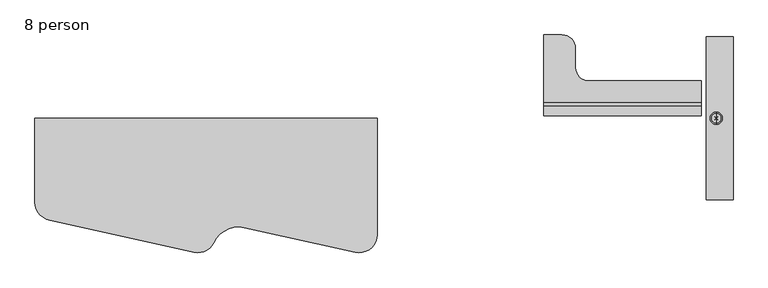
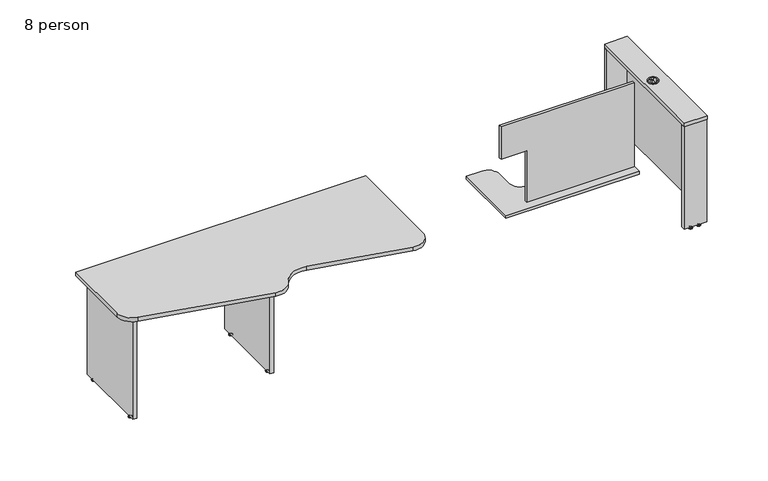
"""IFC4 building model written with IfcOpenShell, lengths in millimetres: furniture geometry, Nova Solutions - Collaboration Table - Keystone_8-11 person : 8 person."""

from ifc_helpers import new_model, si_unit, point, frame, frame_2d, origin, place, context, project, spatial, polyline, circle_curve, ellipse_curve, trimmed, segment, composite_curve, outline, extrude, source, transform, mapped, element, save
from ifc_brep_helpers import plane_surface, cylinder_surface, revolved_surface, advanced_brep


def furniture_8_person_16eeabb3(model_context):
    return source(origin(), model_context, "Body", "SolidModel", [
        advanced_brep(
        [(-1375.9776506, -474.3309375, 11.1125), (-1369.3, -474.3309375, 11.1125), (-1362.6223494, -474.3309375, 11.1125), (-1375.9776506, -474.3309375, 9.525), (-1362.6223494, -474.3309375, 9.525), (-1381.1855135, -474.3309375, 4.7748687), (-1357.4144865, -474.3309375, 4.7748687), (-1382.0466506, -474.3309375, 3.989419), (-1356.5533494, -474.3309375, 3.989419), (-1382.0466506, -474.3309375, 3.175), (-1356.5533494, -474.3309375, 3.175), (-1381.1959119, -474.3309375, 0.0), (-1357.4040881, -474.3309375, 0.0), (-1369.3, -474.3309375, 0.0)],
        [
            (0, 1),
            (1, 2),
            (2, 0, circle_curve(frame((-1369.3, -474.3309375, 11.1125), z_axis=(0.0, 0.0, 1.0), x_axis=(1.0, 0.0, 0.0)), 6.6776506)),
            (0, 2, circle_curve(frame((-1369.3, -474.3309375, 11.1125), z_axis=(0.0, 0.0, 1.0), x_axis=(1.0, 0.0, 0.0)), 6.6776506)),
            (3, 0),
            (2, 4),
            (4, 3, circle_curve(frame((-1369.3, -474.3309375, 9.525), z_axis=(0.0, 0.0, 1.0), x_axis=(1.0, 0.0, 0.0)), 6.6776506)),
            (3, 4, circle_curve(frame((-1369.3, -474.3309375, 9.525), z_axis=(0.0, 0.0, 1.0), x_axis=(1.0, 0.0, 0.0)), 6.6776506)),
            (5, 3, circle_curve(frame((-1382.2320627, -474.3309375, 11.1521822), z_axis=(0.0, -1.0, 0.0), x_axis=(1.0, 0.0, 0.0)), 6.462615)),
            (4, 6, circle_curve(frame((-1356.3679373, -474.3309375, 11.1521822), z_axis=(0.0, -1.0, 0.0), x_axis=(-1.0, 0.0, 0.0)), 6.462615)),
            (6, 5, circle_curve(frame((-1369.3, -474.3309375, 4.7748687), z_axis=(0.0, 0.0, 1.0), x_axis=(1.0, 0.0, 0.0)), 11.8855135)),
            (5, 6, circle_curve(frame((-1369.3, -474.3309375, 4.7748687), z_axis=(0.0, 0.0, 1.0), x_axis=(1.0, 0.0, 0.0)), 11.8855135)),
            (7, 5, circle_curve(frame((-1381.0124632, -474.3309375, 3.7203591), z_axis=(0.0, 1.0, 0.0), x_axis=(1.0, 0.0, 0.0)), 1.0686145)),
            (6, 8, circle_curve(frame((-1357.5875368, -474.3309375, 3.7203591), z_axis=(0.0, 1.0, 0.0), x_axis=(-1.0, 0.0, 0.0)), 1.0686145)),
            (8, 7, circle_curve(frame((-1369.3, -474.3309375, 3.989419), z_axis=(0.0, 0.0, 1.0), x_axis=(1.0, 0.0, 0.0)), 12.7466506)),
            (7, 8, circle_curve(frame((-1369.3, -474.3309375, 3.989419), z_axis=(0.0, 0.0, 1.0), x_axis=(1.0, 0.0, 0.0)), 12.7466506)),
            (9, 7),
            (8, 10),
            (10, 9, circle_curve(frame((-1369.3, -474.3309375, 3.175), z_axis=(0.0, 0.0, 1.0), x_axis=(1.0, 0.0, 0.0)), 12.7466506)),
            (9, 10, circle_curve(frame((-1369.3, -474.3309375, 3.175), z_axis=(0.0, 0.0, 1.0), x_axis=(1.0, 0.0, 0.0)), 12.7466506)),
            (11, 9),
            (10, 12),
            (12, 11, circle_curve(frame((-1369.3, -474.3309375, 0.0), z_axis=(0.0, 0.0, 1.0), x_axis=(1.0, 0.0, 0.0)), 11.8959119)),
            (11, 12, circle_curve(frame((-1369.3, -474.3309375, 0.0), z_axis=(0.0, 0.0, 1.0), x_axis=(1.0, 0.0, 0.0)), 11.8959119)),
            (13, 11),
            (12, 13),
        ],
        [
            plane_surface(frame((-1369.3, -474.3309375, 11.1125), z_axis=(0.0, 0.0, 1.0), x_axis=(1.0, 0.0, 0.0))),
            cylinder_surface(frame((-1369.3, -474.3309375, 43.2095994), z_axis=(0.0, 0.0, -1.0), x_axis=(1.0, 0.0, 0.0)), 6.6776506),
            revolved_surface(trimmed(ellipse_curve(frame((-1356.3679373, -474.3309375, 11.1521822), z_axis=(0.0, -1.0, 0.0), x_axis=(-1.0, 0.0, 0.0)), 6.462615, 6.462615), [point((-1362.6223494, -474.3309375, 9.525))], [point((-1357.4144865, -474.3309375, 4.7748687))], True, "CARTESIAN"), (-1369.3, -474.3309375, 43.2095994), (0.0, 0.0, -1.0)),
            revolved_surface(trimmed(ellipse_curve(frame((-1357.5875368, -474.3309375, 3.7203591), z_axis=(0.0, 1.0, 0.0), x_axis=(-1.0, 0.0, 0.0)), 1.0686145, 1.0686145), [point((-1357.4144865, -474.3309375, 4.7748687))], [point((-1356.5533494, -474.3309375, 3.989419))], True, "CARTESIAN"), (-1369.3, -474.3309375, 43.2095994), (0.0, 0.0, -1.0)),
            cylinder_surface(frame((-1369.3, -474.3309375, 43.2095994), z_axis=(0.0, 0.0, -1.0), x_axis=(1.0, 0.0, 0.0)), 12.7466506),
            revolved_surface(polyline([(-1356.5533494, -474.3309375, 3.175), (-1357.4040881, -474.3309375, 0.0)]), (-1369.3, -474.3309375, 43.2095994), (0.0, 0.0, -1.0)),
            plane_surface(frame((-1369.3, -474.3309375, 0.0), z_axis=(0.0, 0.0, -1.0), x_axis=(1.0, 0.0, 0.0))),
        ],
        [
            (0, [[1, 2, 3]]),
            (0, [[-2, -1, 4]]),
            (1, [[5, -3, 6, 7]]),
            (1, [[-6, -4, -5, 8]]),
            (2, [[9, -7, 10, 11]]),
            (2, [[-10, -8, -9, 12]]),
            (3, [[13, -11, 14, 15]]),
            (3, [[-14, -12, -13, 16]]),
            (4, [[17, -15, 18, 19]]),
            (4, [[-18, -16, -17, 20]]),
            (5, [[21, -19, 22, 23]]),
            (5, [[-22, -20, -21, 24]]),
            (6, [[25, -23, 26]]),
            (6, [[-26, -24, -25]]),
        ],
    ),
        advanced_brep(
        [(-1375.9776506, -50.3590625, 11.1125), (-1369.3, -50.3590625, 11.1125), (-1362.6223494, -50.3590625, 11.1125), (-1375.9776506, -50.3590625, 9.525), (-1362.6223494, -50.3590625, 9.525), (-1381.1855135, -50.3590625, 4.7748687), (-1357.4144865, -50.3590625, 4.7748687), (-1382.0466506, -50.3590625, 3.989419), (-1356.5533494, -50.3590625, 3.989419), (-1382.0466506, -50.3590625, 3.175), (-1356.5533494, -50.3590625, 3.175), (-1381.1959119, -50.3590625, 0.0), (-1357.4040881, -50.3590625, 0.0), (-1369.3, -50.3590625, 0.0)],
        [
            (0, 1),
            (1, 2),
            (2, 0, circle_curve(frame((-1369.3, -50.3590625, 11.1125), z_axis=(0.0, 0.0, 1.0), x_axis=(1.0, 0.0, 0.0)), 6.6776506)),
            (0, 2, circle_curve(frame((-1369.3, -50.3590625, 11.1125), z_axis=(0.0, 0.0, 1.0), x_axis=(1.0, 0.0, 0.0)), 6.6776506)),
            (3, 0),
            (2, 4),
            (4, 3, circle_curve(frame((-1369.3, -50.3590625, 9.525), z_axis=(0.0, 0.0, 1.0), x_axis=(1.0, 0.0, 0.0)), 6.6776506)),
            (3, 4, circle_curve(frame((-1369.3, -50.3590625, 9.525), z_axis=(0.0, 0.0, 1.0), x_axis=(1.0, 0.0, 0.0)), 6.6776506)),
            (5, 3, circle_curve(frame((-1382.2320627, -50.3590625, 11.1521822), z_axis=(0.0, -1.0, 0.0), x_axis=(1.0, 0.0, 0.0)), 6.462615)),
            (4, 6, circle_curve(frame((-1356.3679373, -50.3590625, 11.1521822), z_axis=(0.0, -1.0, 0.0), x_axis=(-1.0, 0.0, 0.0)), 6.462615)),
            (6, 5, circle_curve(frame((-1369.3, -50.3590625, 4.7748687), z_axis=(0.0, 0.0, 1.0), x_axis=(1.0, 0.0, 0.0)), 11.8855135)),
            (5, 6, circle_curve(frame((-1369.3, -50.3590625, 4.7748687), z_axis=(0.0, 0.0, 1.0), x_axis=(1.0, 0.0, 0.0)), 11.8855135)),
            (7, 5, circle_curve(frame((-1381.0124632, -50.3590625, 3.7203591), z_axis=(0.0, 1.0, 0.0), x_axis=(1.0, 0.0, 0.0)), 1.0686145)),
            (6, 8, circle_curve(frame((-1357.5875368, -50.3590625, 3.7203591), z_axis=(0.0, 1.0, 0.0), x_axis=(-1.0, 0.0, 0.0)), 1.0686145)),
            (8, 7, circle_curve(frame((-1369.3, -50.3590625, 3.989419), z_axis=(0.0, 0.0, 1.0), x_axis=(1.0, 0.0, 0.0)), 12.7466506)),
            (7, 8, circle_curve(frame((-1369.3, -50.3590625, 3.989419), z_axis=(0.0, 0.0, 1.0), x_axis=(1.0, 0.0, 0.0)), 12.7466506)),
            (9, 7),
            (8, 10),
            (10, 9, circle_curve(frame((-1369.3, -50.3590625, 3.175), z_axis=(0.0, 0.0, 1.0), x_axis=(1.0, 0.0, 0.0)), 12.7466506)),
            (9, 10, circle_curve(frame((-1369.3, -50.3590625, 3.175), z_axis=(0.0, 0.0, 1.0), x_axis=(1.0, 0.0, 0.0)), 12.7466506)),
            (11, 9),
            (10, 12),
            (12, 11, circle_curve(frame((-1369.3, -50.3590625, 0.0), z_axis=(0.0, 0.0, 1.0), x_axis=(1.0, 0.0, 0.0)), 11.8959119)),
            (11, 12, circle_curve(frame((-1369.3, -50.3590625, 0.0), z_axis=(0.0, 0.0, 1.0), x_axis=(1.0, 0.0, 0.0)), 11.8959119)),
            (13, 11),
            (12, 13),
        ],
        [
            plane_surface(frame((-1369.3, -50.3590625, 11.1125), z_axis=(0.0, 0.0, 1.0), x_axis=(1.0, 0.0, 0.0))),
            cylinder_surface(frame((-1369.3, -50.3590625, 43.2095994), z_axis=(0.0, 0.0, -1.0), x_axis=(1.0, 0.0, 0.0)), 6.6776506),
            revolved_surface(trimmed(ellipse_curve(frame((-1356.3679373, -50.3590625, 11.1521822), z_axis=(0.0, -1.0, 0.0), x_axis=(-1.0, 0.0, 0.0)), 6.462615, 6.462615), [point((-1362.6223494, -50.3590625, 9.525))], [point((-1357.4144865, -50.3590625, 4.7748687))], True, "CARTESIAN"), (-1369.3, -50.3590625, 43.2095994), (0.0, 0.0, -1.0)),
            revolved_surface(trimmed(ellipse_curve(frame((-1357.5875368, -50.3590625, 3.7203591), z_axis=(0.0, 1.0, 0.0), x_axis=(-1.0, 0.0, 0.0)), 1.0686145, 1.0686145), [point((-1357.4144865, -50.3590625, 4.7748687))], [point((-1356.5533494, -50.3590625, 3.989419))], True, "CARTESIAN"), (-1369.3, -50.3590625, 43.2095994), (0.0, 0.0, -1.0)),
            cylinder_surface(frame((-1369.3, -50.3590625, 43.2095994), z_axis=(0.0, 0.0, -1.0), x_axis=(1.0, 0.0, 0.0)), 12.7466506),
            revolved_surface(polyline([(-1356.5533494, -50.3590625, 3.175), (-1357.4040881, -50.3590625, 0.0)]), (-1369.3, -50.3590625, 43.2095994), (0.0, 0.0, -1.0)),
            plane_surface(frame((-1369.3, -50.3590625, 0.0), z_axis=(0.0, 0.0, -1.0), x_axis=(1.0, 0.0, 0.0))),
        ],
        [
            (0, [[1, 2, 3]]),
            (0, [[-2, -1, 4]]),
            (1, [[5, -3, 6, 7]]),
            (1, [[-6, -4, -5, 8]]),
            (2, [[9, -7, 10, 11]]),
            (2, [[-10, -8, -9, 12]]),
            (3, [[13, -11, 14, 15]]),
            (3, [[-14, -12, -13, 16]]),
            (4, [[17, -15, 18, 19]]),
            (4, [[-18, -16, -17, 20]]),
            (5, [[21, -19, 22, 23]]),
            (5, [[-22, -20, -21, 24]]),
            (6, [[25, -23, 26]]),
            (6, [[-26, -24, -25]]),
        ],
    ),
        extrude(outline(polyline([(-1382.15, -1.345), (-1356.45, -1.345), (-1356.45, -523.345), (-1382.15, -523.345), (-1382.15, -1.345)])), frame((0.0, 0.0, 15.6), z_axis=(0.0, 0.0, 1.0), x_axis=(1.0, 0.0, 0.0)), (0.0, 0.0, 1.0), 720.7),
        advanced_brep(
        [(-449.7223494, -474.3309375, 11.1125), (-463.0776506, -474.3309375, 11.1125), (-456.4, -474.3309375, 11.1125), (-449.7223494, -474.3309375, 9.525), (-463.0776506, -474.3309375, 9.525), (-444.5144865, -474.3309375, 4.7748687), (-468.2855135, -474.3309375, 4.7748687), (-443.6533494, -474.3309375, 3.989419), (-469.1466506, -474.3309375, 3.989419), (-443.6533494, -474.3309375, 3.175), (-469.1466506, -474.3309375, 3.175), (-444.5040881, -474.3309375, 0.0), (-468.2959119, -474.3309375, 0.0), (-456.4, -474.3309375, 0.0)],
        [
            (0, 1, circle_curve(frame((-456.4, -474.3309375, 11.1125), z_axis=(0.0, 0.0, 1.0), x_axis=(-1.0, 0.0, 0.0)), 6.6776506)),
            (1, 2),
            (2, 0),
            (1, 0, circle_curve(frame((-456.4, -474.3309375, 11.1125), z_axis=(0.0, 0.0, 1.0), x_axis=(-1.0, 0.0, 0.0)), 6.6776506)),
            (3, 4, circle_curve(frame((-456.4, -474.3309375, 9.525), z_axis=(0.0, 0.0, 1.0), x_axis=(-1.0, 0.0, 0.0)), 6.6776506)),
            (4, 1),
            (0, 3),
            (4, 3, circle_curve(frame((-456.4, -474.3309375, 9.525), z_axis=(0.0, 0.0, 1.0), x_axis=(-1.0, 0.0, 0.0)), 6.6776506)),
            (5, 6, circle_curve(frame((-456.4, -474.3309375, 4.7748687), z_axis=(0.0, 0.0, 1.0), x_axis=(-1.0, 0.0, 0.0)), 11.8855135)),
            (6, 4, circle_curve(frame((-469.3320627, -474.3309375, 11.1521822), z_axis=(0.0, -1.0, 0.0), x_axis=(1.0, 0.0, 0.0)), 6.462615)),
            (3, 5, circle_curve(frame((-443.4679373, -474.3309375, 11.1521822), z_axis=(0.0, -1.0, 0.0), x_axis=(-1.0, 0.0, 0.0)), 6.462615)),
            (6, 5, circle_curve(frame((-456.4, -474.3309375, 4.7748687), z_axis=(0.0, 0.0, 1.0), x_axis=(-1.0, 0.0, 0.0)), 11.8855135)),
            (7, 8, circle_curve(frame((-456.4, -474.3309375, 3.989419), z_axis=(0.0, 0.0, 1.0), x_axis=(-1.0, 0.0, 0.0)), 12.7466506)),
            (8, 6, circle_curve(frame((-468.1124632, -474.3309375, 3.7203591), z_axis=(0.0, 1.0, 0.0), x_axis=(1.0, 0.0, 0.0)), 1.0686145)),
            (5, 7, circle_curve(frame((-444.6875368, -474.3309375, 3.7203591), z_axis=(0.0, 1.0, 0.0), x_axis=(-1.0, 0.0, 0.0)), 1.0686145)),
            (8, 7, circle_curve(frame((-456.4, -474.3309375, 3.989419), z_axis=(0.0, 0.0, 1.0), x_axis=(-1.0, 0.0, 0.0)), 12.7466506)),
            (9, 10, circle_curve(frame((-456.4, -474.3309375, 3.175), z_axis=(0.0, 0.0, 1.0), x_axis=(-1.0, 0.0, 0.0)), 12.7466506)),
            (10, 8),
            (7, 9),
            (10, 9, circle_curve(frame((-456.4, -474.3309375, 3.175), z_axis=(0.0, 0.0, 1.0), x_axis=(-1.0, 0.0, 0.0)), 12.7466506)),
            (11, 12, circle_curve(frame((-456.4, -474.3309375, 0.0), z_axis=(0.0, 0.0, 1.0), x_axis=(-1.0, 0.0, 0.0)), 11.8959119)),
            (12, 10),
            (9, 11),
            (12, 11, circle_curve(frame((-456.4, -474.3309375, 0.0), z_axis=(0.0, 0.0, 1.0), x_axis=(-1.0, 0.0, 0.0)), 11.8959119)),
            (13, 12),
            (11, 13),
        ],
        [
            plane_surface(frame((-456.4, -474.3309375, 11.1125), z_axis=(0.0, 0.0, 1.0), x_axis=(-1.0, 0.0, 0.0))),
            cylinder_surface(frame((-456.4, -474.3309375, 43.2095994), z_axis=(0.0, 0.0, -1.0), x_axis=(-1.0, 0.0, 0.0)), 6.6776506),
            revolved_surface(trimmed(ellipse_curve(frame((-469.3320627, -474.3309375, 11.1521822), z_axis=(0.0, 1.0, 0.0), x_axis=(1.0, 0.0, 0.0)), 6.462615, 6.462615), [point((-463.0776506, -474.3309375, 9.525))], [point((-468.2855135, -474.3309375, 4.7748687))], True, "CARTESIAN"), (-456.4, -474.3309375, 43.2095994), (0.0, 0.0, -1.0)),
            revolved_surface(trimmed(ellipse_curve(frame((-468.1124632, -474.3309375, 3.7203591), z_axis=(0.0, -1.0, 0.0), x_axis=(1.0, 0.0, 0.0)), 1.0686145, 1.0686145), [point((-468.2855135, -474.3309375, 4.7748687))], [point((-469.1466506, -474.3309375, 3.989419))], True, "CARTESIAN"), (-456.4, -474.3309375, 43.2095994), (0.0, 0.0, -1.0)),
            cylinder_surface(frame((-456.4, -474.3309375, 43.2095994), z_axis=(0.0, 0.0, -1.0), x_axis=(-1.0, 0.0, 0.0)), 12.7466506),
            revolved_surface(polyline([(-469.1466506, -474.3309375, 3.175), (-468.2959119, -474.3309375, 0.0)]), (-456.4, -474.3309375, 43.2095994), (0.0, 0.0, -1.0)),
            plane_surface(frame((-456.4, -474.3309375, 0.0), z_axis=(0.0, 0.0, -1.0), x_axis=(-1.0, 0.0, 0.0))),
        ],
        [
            (0, [[1, 2, 3]]),
            (0, [[4, -3, -2]]),
            (1, [[5, 6, -1, 7]]),
            (1, [[8, -7, -4, -6]]),
            (2, [[9, 10, -5, 11]]),
            (2, [[12, -11, -8, -10]]),
            (3, [[13, 14, -9, 15]]),
            (3, [[16, -15, -12, -14]]),
            (4, [[17, 18, -13, 19]]),
            (4, [[20, -19, -16, -18]]),
            (5, [[21, 22, -17, 23]]),
            (5, [[24, -23, -20, -22]]),
            (6, [[25, -21, 26]]),
            (6, [[-26, -24, -25]]),
        ],
    ),
        advanced_brep(
        [(-449.7223494, -50.3590625, 11.1125), (-463.0776506, -50.3590625, 11.1125), (-456.4, -50.3590625, 11.1125), (-449.7223494, -50.3590625, 9.525), (-463.0776506, -50.3590625, 9.525), (-444.5144865, -50.3590625, 4.7748687), (-468.2855135, -50.3590625, 4.7748687), (-443.6533494, -50.3590625, 3.989419), (-469.1466506, -50.3590625, 3.989419), (-443.6533494, -50.3590625, 3.175), (-469.1466506, -50.3590625, 3.175), (-444.5040881, -50.3590625, 0.0), (-468.2959119, -50.3590625, 0.0), (-456.4, -50.3590625, 0.0)],
        [
            (0, 1, circle_curve(frame((-456.4, -50.3590625, 11.1125), z_axis=(0.0, 0.0, 1.0), x_axis=(-1.0, 0.0, 0.0)), 6.6776506)),
            (1, 2),
            (2, 0),
            (1, 0, circle_curve(frame((-456.4, -50.3590625, 11.1125), z_axis=(0.0, 0.0, 1.0), x_axis=(-1.0, 0.0, 0.0)), 6.6776506)),
            (3, 4, circle_curve(frame((-456.4, -50.3590625, 9.525), z_axis=(0.0, 0.0, 1.0), x_axis=(-1.0, 0.0, 0.0)), 6.6776506)),
            (4, 1),
            (0, 3),
            (4, 3, circle_curve(frame((-456.4, -50.3590625, 9.525), z_axis=(0.0, 0.0, 1.0), x_axis=(-1.0, 0.0, 0.0)), 6.6776506)),
            (5, 6, circle_curve(frame((-456.4, -50.3590625, 4.7748687), z_axis=(0.0, 0.0, 1.0), x_axis=(-1.0, 0.0, 0.0)), 11.8855135)),
            (6, 4, circle_curve(frame((-469.3320627, -50.3590625, 11.1521822), z_axis=(0.0, -1.0, 0.0), x_axis=(1.0, 0.0, 0.0)), 6.462615)),
            (3, 5, circle_curve(frame((-443.4679373, -50.3590625, 11.1521822), z_axis=(0.0, -1.0, 0.0), x_axis=(-1.0, 0.0, 0.0)), 6.462615)),
            (6, 5, circle_curve(frame((-456.4, -50.3590625, 4.7748687), z_axis=(0.0, 0.0, 1.0), x_axis=(-1.0, 0.0, 0.0)), 11.8855135)),
            (7, 8, circle_curve(frame((-456.4, -50.3590625, 3.989419), z_axis=(0.0, 0.0, 1.0), x_axis=(-1.0, 0.0, 0.0)), 12.7466506)),
            (8, 6, circle_curve(frame((-468.1124632, -50.3590625, 3.7203591), z_axis=(0.0, 1.0, 0.0), x_axis=(1.0, 0.0, 0.0)), 1.0686145)),
            (5, 7, circle_curve(frame((-444.6875368, -50.3590625, 3.7203591), z_axis=(0.0, 1.0, 0.0), x_axis=(-1.0, 0.0, 0.0)), 1.0686145)),
            (8, 7, circle_curve(frame((-456.4, -50.3590625, 3.989419), z_axis=(0.0, 0.0, 1.0), x_axis=(-1.0, 0.0, 0.0)), 12.7466506)),
            (9, 10, circle_curve(frame((-456.4, -50.3590625, 3.175), z_axis=(0.0, 0.0, 1.0), x_axis=(-1.0, 0.0, 0.0)), 12.7466506)),
            (10, 8),
            (7, 9),
            (10, 9, circle_curve(frame((-456.4, -50.3590625, 3.175), z_axis=(0.0, 0.0, 1.0), x_axis=(-1.0, 0.0, 0.0)), 12.7466506)),
            (11, 12, circle_curve(frame((-456.4, -50.3590625, 0.0), z_axis=(0.0, 0.0, 1.0), x_axis=(-1.0, 0.0, 0.0)), 11.8959119)),
            (12, 10),
            (9, 11),
            (12, 11, circle_curve(frame((-456.4, -50.3590625, 0.0), z_axis=(0.0, 0.0, 1.0), x_axis=(-1.0, 0.0, 0.0)), 11.8959119)),
            (13, 12),
            (11, 13),
        ],
        [
            plane_surface(frame((-456.4, -50.3590625, 11.1125), z_axis=(0.0, 0.0, 1.0), x_axis=(-1.0, 0.0, 0.0))),
            cylinder_surface(frame((-456.4, -50.3590625, 43.2095994), z_axis=(0.0, 0.0, -1.0), x_axis=(-1.0, 0.0, 0.0)), 6.6776506),
            revolved_surface(trimmed(ellipse_curve(frame((-469.3320627, -50.3590625, 11.1521822), z_axis=(0.0, 1.0, 0.0), x_axis=(1.0, 0.0, 0.0)), 6.462615, 6.462615), [point((-463.0776506, -50.3590625, 9.525))], [point((-468.2855135, -50.3590625, 4.7748687))], True, "CARTESIAN"), (-456.4, -50.3590625, 43.2095994), (0.0, 0.0, -1.0)),
            revolved_surface(trimmed(ellipse_curve(frame((-468.1124632, -50.3590625, 3.7203591), z_axis=(0.0, -1.0, 0.0), x_axis=(1.0, 0.0, 0.0)), 1.0686145, 1.0686145), [point((-468.2855135, -50.3590625, 4.7748687))], [point((-469.1466506, -50.3590625, 3.989419))], True, "CARTESIAN"), (-456.4, -50.3590625, 43.2095994), (0.0, 0.0, -1.0)),
            cylinder_surface(frame((-456.4, -50.3590625, 43.2095994), z_axis=(0.0, 0.0, -1.0), x_axis=(-1.0, 0.0, 0.0)), 12.7466506),
            revolved_surface(polyline([(-469.1466506, -50.3590625, 3.175), (-468.2959119, -50.3590625, 0.0)]), (-456.4, -50.3590625, 43.2095994), (0.0, 0.0, -1.0)),
            plane_surface(frame((-456.4, -50.3590625, 0.0), z_axis=(0.0, 0.0, -1.0), x_axis=(-1.0, 0.0, 0.0))),
        ],
        [
            (0, [[1, 2, 3]]),
            (0, [[4, -3, -2]]),
            (1, [[5, 6, -1, 7]]),
            (1, [[8, -7, -4, -6]]),
            (2, [[9, 10, -5, 11]]),
            (2, [[12, -11, -8, -10]]),
            (3, [[13, 14, -9, 15]]),
            (3, [[16, -15, -12, -14]]),
            (4, [[17, 18, -13, 19]]),
            (4, [[20, -19, -16, -18]]),
            (5, [[21, 22, -17, 23]]),
            (5, [[24, -23, -20, -22]]),
            (6, [[25, -21, 26]]),
            (6, [[-26, -24, -25]]),
        ],
    ),
        extrude(outline(polyline([(-443.55, -1.345), (-443.55, -523.345), (-469.25, -523.345), (-469.25, -1.345), (-443.55, -1.345)])), frame((0.0, 0.0, 15.6), z_axis=(0.0, 0.0, 1.0), x_axis=(1.0, 0.0, 0.0)), (0.0, 0.0, 1.0), 720.7),
        extrude(outline(composite_curve([segment(polyline([(470.65, 0.0), (470.65, -656.5229386)]), True, "CONTINUOUS"), segment(trimmed(circle_curve(frame_2d((369.15, -656.5229386)), 101.5), [point((470.65, -656.5229386))], [point((347.1813792, -755.6169834))], False, "CARTESIAN"), True, "CONTINUOUS"), segment(polyline([(347.1813792, -755.6169834), (-279.3215717, -616.724623)]), True, "CONTINUOUS"), segment(trimmed(circle_curve(frame_2d((-312.3069689, -765.5121345)), 152.4), [point((-279.3215717, -616.724623))], [point((-450.9850666, -702.3128843))], True, "CARTESIAN"), True, "CONTINUOUS"), segment(trimmed(circle_curve(frame_2d((-541.5867994, -656.5572725)), 101.5), [point((-450.9850666, -702.3128843))], [point((-563.6827884, -755.6229945))], False, "CARTESIAN"), True, "CONTINUOUS"), segment(polyline([(-563.6827884, -755.6229945), (-1377.1758236, -574.1784667)]), True, "CONTINUOUS"), segment(trimmed(circle_curve(frame_2d((-1358.2251452, -474.4632633)), 101.5), [point((-1377.1758236, -574.1784667))], [point((-1459.7251452, -474.4632633))], False, "CARTESIAN"), True, "CONTINUOUS"), segment(polyline([(-1459.7251452, -474.4632633), (-1459.7251452, 0.0), (470.65, 0.0)]), True, "CONTINUOUS")], self_intersect=False)), frame((0.0, 0.0, 736.3), z_axis=(0.0, 0.0, 1.0), x_axis=(1.0, 0.0, 0.0)), (0.0, 0.0, 1.0), 25.7),
        advanced_brep(
        [(2382.288, -34.925, 762.0), (2382.288, 34.925, 762.0), (2382.288, 24.6435157, 762.0), (2381.141542, 2.7677944, 762.0), (2364.8624029, 17.4255971, 762.0), (2379.5202056, 1.146458, 762.0), (2357.6444843, 0.0, 762.0), (2379.5202056, -1.146458, 762.0), (2364.8624029, -17.4255971, 762.0), (2381.141542, -2.7677944, 762.0), (2382.288, -24.6435157, 762.0), (2383.434458, -2.7677944, 762.0), (2399.7135971, -17.4255971, 762.0), (2385.0557944, -1.146458, 762.0), (2406.9315157, 0.0, 762.0), (2385.0557944, 1.146458, 762.0), (2399.7135971, 17.4255971, 762.0), (2383.434458, 2.7677944, 762.0), (2382.288, -34.925, 763.3787817), (2382.288, 34.925, 763.3787817), (2382.288, -28.7119174, 765.175), (2382.288, 28.7119174, 765.175), (2382.288, -24.6435157, 765.175), (2381.141542, -2.7677944, 765.175), (2364.8624029, -17.4255971, 765.175), (2379.5202056, -1.146458, 765.175), (2357.6444843, 0.0, 765.175), (2379.5202056, 1.146458, 765.175), (2364.8624029, 17.4255971, 765.175), (2381.141542, 2.7677944, 765.175), (2382.288, 24.6435157, 765.175), (2383.434458, 2.7677944, 765.175), (2399.7135971, 17.4255971, 765.175), (2385.0557944, 1.146458, 765.175), (2406.9315157, 0.0, 765.175), (2385.0557944, -1.146458, 765.175), (2399.7135971, -17.4255971, 765.175), (2383.434458, -2.7677944, 765.175)],
        [
            (0, 1, circle_curve(frame((2382.288, 0.0, 762.0), z_axis=(0.0, 0.0, -1.0), x_axis=(0.0, 1.0, 0.0)), 34.925)),
            (1, 2),
            (2, 3),
            (3, 4),
            (4, 5),
            (5, 6),
            (6, 7),
            (7, 8),
            (8, 9),
            (9, 10),
            (10, 0),
            (1, 0, circle_curve(frame((2382.288, 0.0, 762.0), z_axis=(0.0, 0.0, -1.0), x_axis=(0.0, 1.0, 0.0)), 34.925)),
            (10, 11),
            (11, 12),
            (12, 13),
            (13, 14),
            (14, 15),
            (15, 16),
            (16, 17),
            (17, 2),
            (0, 18),
            (18, 19, circle_curve(frame((2382.288, 0.0, 763.3787817), z_axis=(0.0, 0.0, -1.0), x_axis=(0.0, 1.0, 0.0)), 34.925)),
            (19, 1),
            (19, 18, circle_curve(frame((2382.288, 0.0, 763.3787817), z_axis=(0.0, 0.0, -1.0), x_axis=(0.0, 1.0, 0.0)), 34.925)),
            (18, 20, circle_curve(frame((2382.288, -31.558813, 763.3787817), z_axis=(-1.0, 0.0, 0.0), x_axis=(0.0, -1.0, 0.0)), 3.366187)),
            (20, 21, circle_curve(frame((2382.288, 0.0, 765.175), z_axis=(0.0, 0.0, -1.0), x_axis=(0.0, 1.0, 0.0)), 28.7119174)),
            (21, 19, circle_curve(frame((2382.288, 31.558813, 763.3787817), z_axis=(-1.0, 0.0, 0.0), x_axis=(0.0, 1.0, 0.0)), 3.366187)),
            (21, 20, circle_curve(frame((2382.288, 0.0, 765.175), z_axis=(0.0, 0.0, -1.0), x_axis=(0.0, 1.0, 0.0)), 28.7119174)),
            (20, 22),
            (22, 23),
            (23, 24),
            (24, 25),
            (25, 26),
            (26, 27),
            (27, 28),
            (28, 29),
            (29, 30),
            (30, 21),
            (30, 31),
            (31, 32),
            (32, 33),
            (33, 34),
            (34, 35),
            (35, 36),
            (36, 37),
            (37, 22),
            (26, 6),
            (5, 27),
            (25, 7),
            (24, 8),
            (23, 9),
            (22, 10),
            (37, 11),
            (36, 12),
            (35, 13),
            (34, 14),
            (33, 15),
            (32, 16),
            (31, 17),
            (30, 2),
            (29, 3),
            (28, 4),
        ],
        [
            plane_surface(frame((2382.288, 0.0, 762.0), z_axis=(0.0, 0.0, -1.0), x_axis=(0.0, 1.0, 0.0))),
            cylinder_surface(frame((2382.288, 0.0, 850.9), z_axis=(0.0, 0.0, 1.0), x_axis=(0.0, 1.0, 0.0)), 34.925),
            revolved_surface(trimmed(ellipse_curve(frame((2382.288, 31.558813, 763.3787817), z_axis=(1.0, 0.0, 0.0), x_axis=(0.0, 1.0, 0.0)), 3.366187, 3.366187), [point((2382.288, 34.925, 763.3787817))], [point((2382.288, 28.7119174, 765.175))], True, "CARTESIAN"), (2382.288, 0.0, 850.9), (0.0, 0.0, 1.0)),
            plane_surface(frame((2382.288, 0.0, 765.175), z_axis=(0.0, 0.0, 1.0), x_axis=(0.0, 1.0, 0.0))),
            plane_surface(frame((2382.288, 1.2915119, 787.4), z_axis=(0.05233595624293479, -0.9986295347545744, 0.0), x_axis=(0.0, 0.0, -1.0))),
            plane_surface(frame((2357.6444843, 0.0, 787.4), z_axis=(0.052335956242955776, 0.9986295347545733, 0.0), x_axis=(0.0, 0.0, -1.0))),
            plane_surface(frame((2381.3747632, 0.9132368, 787.4), z_axis=(0.7431448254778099, -0.6691306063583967, 0.0), x_axis=(0.0, 0.0, -1.0))),
            plane_surface(frame((2364.8624029, -17.4255971, 787.4), z_axis=(-0.6691306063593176, 0.7431448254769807, 0.0), x_axis=(0.0, 0.0, -1.0))),
            plane_surface(frame((2380.9964881, 0.0, 787.4), z_axis=(0.9986295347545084, 0.05233595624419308, 0.0), x_axis=(0.0, 0.0, -1.0))),
            plane_surface(frame((2382.288, -24.6435157, 787.4), z_axis=(-0.9986295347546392, 0.05233595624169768, 0.0), x_axis=(0.0, 0.0, -1.0))),
            plane_surface(frame((2381.3747632, -0.9132368, 787.4), z_axis=(0.6691306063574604, 0.743144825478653, 0.0), x_axis=(0.0, 0.0, -1.0))),
            plane_surface(frame((2399.7135971, -17.4255971, 787.4), z_axis=(-0.7431448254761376, -0.669130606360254, 0.0), x_axis=(0.0, 0.0, -1.0))),
            plane_surface(frame((2382.288, -1.2915119, 787.4), z_axis=(-0.052335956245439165, 0.9986295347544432, 0.0), x_axis=(0.0, 0.0, -1.0))),
            plane_surface(frame((2406.9315157, 0.0, 787.4), z_axis=(-0.05233595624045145, -0.9986295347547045, 0.0), x_axis=(0.0, 0.0, -1.0))),
            plane_surface(frame((2383.2012368, -0.9132368, 787.4), z_axis=(-0.7431448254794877, 0.6691306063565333, 0.0), x_axis=(0.0, 0.0, -1.0))),
            plane_surface(frame((2399.7135971, 17.4255971, 787.4), z_axis=(0.669130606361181, -0.7431448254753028, 0.0), x_axis=(0.0, 0.0, -1.0))),
            plane_surface(frame((2383.5795119, 0.0, 787.4), z_axis=(-0.9986295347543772, -0.05233595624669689, 0.0), x_axis=(0.0, 0.0, -1.0))),
            plane_surface(frame((2382.288, 24.6435157, 787.4), z_axis=(0.9986295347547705, -0.05233595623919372, 0.0), x_axis=(0.0, 0.0, -1.0))),
            plane_surface(frame((2383.2012368, 0.9132368, 787.4), z_axis=(-0.6691306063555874, -0.7431448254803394, 0.0), x_axis=(0.0, 0.0, -1.0))),
            plane_surface(frame((2364.8624029, 17.4255971, 787.4), z_axis=(0.743144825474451, 0.669130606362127, 0.0), x_axis=(0.0, 0.0, -1.0))),
        ],
        [
            (0, [[1, 2, 3, 4, 5, 6, 7, 8, 9, 10, 11]]),
            (0, [[12, -11, 13, 14, 15, 16, 17, 18, 19, 20, -2]]),
            (1, [[-1, 21, 22, 23]]),
            (1, [[-12, -23, 24, -21]]),
            (2, [[-22, 25, 26, 27]]),
            (2, [[-24, -27, 28, -25]]),
            (3, [[-26, 29, 30, 31, 32, 33, 34, 35, 36, 37, 38]]),
            (3, [[-28, -38, 39, 40, 41, 42, 43, 44, 45, 46, -29]]),
            (4, [[47, -6, 48, -34]]),
            (5, [[-47, -33, 49, -7]]),
            (6, [[50, -8, -49, -32]]),
            (7, [[-50, -31, 51, -9]]),
            (8, [[52, -10, -51, -30]]),
            (9, [[-52, -46, 53, -13]]),
            (10, [[54, -14, -53, -45]]),
            (11, [[-54, -44, 55, -15]]),
            (12, [[56, -16, -55, -43]]),
            (13, [[-56, -42, 57, -17]]),
            (14, [[58, -18, -57, -41]]),
            (15, [[-58, -40, 59, -19]]),
            (16, [[60, -20, -59, -39]]),
            (17, [[-60, -37, 61, -3]]),
            (18, [[62, -4, -61, -36]]),
            (19, [[-62, -35, -48, -5]]),
        ],
    ),
        advanced_brep(
        [(2428.2739375, 451.0276506, 11.1125), (2428.2739375, 437.6723494, 11.1125), (2428.2739375, 444.35, 11.1125), (2428.2739375, 451.0276506, 9.525), (2428.2739375, 437.6723494, 9.525), (2428.2739375, 456.2355135, 4.7748687), (2428.2739375, 432.4644865, 4.7748687), (2428.2739375, 457.0966506, 3.989419), (2428.2739375, 431.6033494, 3.989419), (2428.2739375, 457.0966506, 3.175), (2428.2739375, 431.6033494, 3.175), (2428.2739375, 456.2459119, 0.0), (2428.2739375, 432.4540881, 0.0), (2428.2739375, 444.35, 0.0)],
        [
            (0, 1, circle_curve(frame((2428.2739375, 444.35, 11.1125), z_axis=(0.0, 0.0, 1.0), x_axis=(0.0, -1.0, 0.0)), 6.6776506)),
            (1, 2),
            (2, 0),
            (1, 0, circle_curve(frame((2428.2739375, 444.35, 11.1125), z_axis=(0.0, 0.0, 1.0), x_axis=(0.0, -1.0, 0.0)), 6.6776506)),
            (3, 4, circle_curve(frame((2428.2739375, 444.35, 9.525), z_axis=(0.0, 0.0, 1.0), x_axis=(0.0, -1.0, 0.0)), 6.6776506)),
            (4, 1),
            (0, 3),
            (4, 3, circle_curve(frame((2428.2739375, 444.35, 9.525), z_axis=(0.0, 0.0, 1.0), x_axis=(0.0, -1.0, 0.0)), 6.6776506)),
            (5, 6, circle_curve(frame((2428.2739375, 444.35, 4.7748687), z_axis=(0.0, 0.0, 1.0), x_axis=(0.0, -1.0, 0.0)), 11.8855135)),
            (6, 4, circle_curve(frame((2428.2739375, 431.4179373, 11.1521822), z_axis=(1.0, 0.0, 0.0), x_axis=(0.0, 1.0, 0.0)), 6.462615)),
            (3, 5, circle_curve(frame((2428.2739375, 457.2820627, 11.1521822), z_axis=(1.0, 0.0, 0.0), x_axis=(0.0, -1.0, 0.0)), 6.462615)),
            (6, 5, circle_curve(frame((2428.2739375, 444.35, 4.7748687), z_axis=(0.0, 0.0, 1.0), x_axis=(0.0, -1.0, 0.0)), 11.8855135)),
            (7, 8, circle_curve(frame((2428.2739375, 444.35, 3.989419), z_axis=(0.0, 0.0, 1.0), x_axis=(0.0, -1.0, 0.0)), 12.7466506)),
            (8, 6, circle_curve(frame((2428.2739375, 432.6375368, 3.7203591), z_axis=(-1.0, 0.0, 0.0), x_axis=(0.0, 1.0, 0.0)), 1.0686145)),
            (5, 7, circle_curve(frame((2428.2739375, 456.0624632, 3.7203591), z_axis=(-1.0, 0.0, 0.0), x_axis=(0.0, -1.0, 0.0)), 1.0686145)),
            (8, 7, circle_curve(frame((2428.2739375, 444.35, 3.989419), z_axis=(0.0, 0.0, 1.0), x_axis=(0.0, -1.0, 0.0)), 12.7466506)),
            (9, 10, circle_curve(frame((2428.2739375, 444.35, 3.175), z_axis=(0.0, 0.0, 1.0), x_axis=(0.0, -1.0, 0.0)), 12.7466506)),
            (10, 8),
            (7, 9),
            (10, 9, circle_curve(frame((2428.2739375, 444.35, 3.175), z_axis=(0.0, 0.0, 1.0), x_axis=(0.0, -1.0, 0.0)), 12.7466506)),
            (11, 12, circle_curve(frame((2428.2739375, 444.35, 0.0), z_axis=(0.0, 0.0, 1.0), x_axis=(0.0, -1.0, 0.0)), 11.8959119)),
            (12, 10),
            (9, 11),
            (12, 11, circle_curve(frame((2428.2739375, 444.35, 0.0), z_axis=(0.0, 0.0, 1.0), x_axis=(0.0, -1.0, 0.0)), 11.8959119)),
            (13, 12),
            (11, 13),
        ],
        [
            plane_surface(frame((2428.2739375, 444.35, 11.1125), z_axis=(0.0, 0.0, 1.0), x_axis=(0.0, -1.0, 0.0))),
            cylinder_surface(frame((2428.2739375, 444.35, 43.2095994), z_axis=(0.0, 0.0, -1.0), x_axis=(0.0, -1.0, 0.0)), 6.6776506),
            revolved_surface(trimmed(ellipse_curve(frame((2428.2739375, 431.4179373, 11.1521822), z_axis=(-1.0, 0.0, 0.0), x_axis=(0.0, 1.0, 0.0)), 6.462615, 6.462615), [point((2428.2739375, 437.6723494, 9.525))], [point((2428.2739375, 432.4644865, 4.7748687))], True, "CARTESIAN"), (2428.2739375, 444.35, 43.2095994), (0.0, 0.0, -1.0)),
            revolved_surface(trimmed(ellipse_curve(frame((2428.2739375, 432.6375368, 3.7203591), z_axis=(1.0, 0.0, 0.0), x_axis=(0.0, 1.0, 0.0)), 1.0686145, 1.0686145), [point((2428.2739375, 432.4644865, 4.7748687))], [point((2428.2739375, 431.6033494, 3.989419))], True, "CARTESIAN"), (2428.2739375, 444.35, 43.2095994), (0.0, 0.0, -1.0)),
            cylinder_surface(frame((2428.2739375, 444.35, 43.2095994), z_axis=(0.0, 0.0, -1.0), x_axis=(0.0, -1.0, 0.0)), 12.7466506),
            revolved_surface(polyline([(2428.2739375, 431.6033494, 3.175), (2428.2739375, 432.4540881, 0.0)]), (2428.2739375, 444.35, 43.2095994), (0.0, 0.0, -1.0)),
            plane_surface(frame((2428.2739375, 444.35, 0.0), z_axis=(0.0, 0.0, -1.0), x_axis=(0.0, -1.0, 0.0))),
        ],
        [
            (0, [[1, 2, 3]]),
            (0, [[4, -3, -2]]),
            (1, [[5, 6, -1, 7]]),
            (1, [[8, -7, -4, -6]]),
            (2, [[9, 10, -5, 11]]),
            (2, [[12, -11, -8, -10]]),
            (3, [[13, 14, -9, 15]]),
            (3, [[16, -15, -12, -14]]),
            (4, [[17, 18, -13, 19]]),
            (4, [[20, -19, -16, -18]]),
            (5, [[21, 22, -17, 23]]),
            (5, [[24, -23, -20, -22]]),
            (6, [[25, -21, 26]]),
            (6, [[-26, -24, -25]]),
        ],
    ),
        advanced_brep(
        [(2373.9020625, 451.0276506, 11.1125), (2373.9020625, 437.6723494, 11.1125), (2373.9020625, 444.35, 11.1125), (2373.9020625, 451.0276506, 9.525), (2373.9020625, 437.6723494, 9.525), (2373.9020625, 456.2355135, 4.7748687), (2373.9020625, 432.4644865, 4.7748687), (2373.9020625, 457.0966506, 3.989419), (2373.9020625, 431.6033494, 3.989419), (2373.9020625, 457.0966506, 3.175), (2373.9020625, 431.6033494, 3.175), (2373.9020625, 456.2459119, 0.0), (2373.9020625, 432.4540881, 0.0), (2373.9020625, 444.35, 0.0)],
        [
            (0, 1, circle_curve(frame((2373.9020625, 444.35, 11.1125), z_axis=(0.0, 0.0, 1.0), x_axis=(0.0, -1.0, 0.0)), 6.6776506)),
            (1, 2),
            (2, 0),
            (1, 0, circle_curve(frame((2373.9020625, 444.35, 11.1125), z_axis=(0.0, 0.0, 1.0), x_axis=(0.0, -1.0, 0.0)), 6.6776506)),
            (3, 4, circle_curve(frame((2373.9020625, 444.35, 9.525), z_axis=(0.0, 0.0, 1.0), x_axis=(0.0, -1.0, 0.0)), 6.6776506)),
            (4, 1),
            (0, 3),
            (4, 3, circle_curve(frame((2373.9020625, 444.35, 9.525), z_axis=(0.0, 0.0, 1.0), x_axis=(0.0, -1.0, 0.0)), 6.6776506)),
            (5, 6, circle_curve(frame((2373.9020625, 444.35, 4.7748687), z_axis=(0.0, 0.0, 1.0), x_axis=(0.0, -1.0, 0.0)), 11.8855135)),
            (6, 4, circle_curve(frame((2373.9020625, 431.4179373, 11.1521822), z_axis=(1.0, 0.0, 0.0), x_axis=(0.0, 1.0, 0.0)), 6.462615)),
            (3, 5, circle_curve(frame((2373.9020625, 457.2820627, 11.1521822), z_axis=(1.0, 0.0, 0.0), x_axis=(0.0, -1.0, 0.0)), 6.462615)),
            (6, 5, circle_curve(frame((2373.9020625, 444.35, 4.7748687), z_axis=(0.0, 0.0, 1.0), x_axis=(0.0, -1.0, 0.0)), 11.8855135)),
            (7, 8, circle_curve(frame((2373.9020625, 444.35, 3.989419), z_axis=(0.0, 0.0, 1.0), x_axis=(0.0, -1.0, 0.0)), 12.7466506)),
            (8, 6, circle_curve(frame((2373.9020625, 432.6375368, 3.7203591), z_axis=(-1.0, 0.0, 0.0), x_axis=(0.0, 1.0, 0.0)), 1.0686145)),
            (5, 7, circle_curve(frame((2373.9020625, 456.0624632, 3.7203591), z_axis=(-1.0, 0.0, 0.0), x_axis=(0.0, -1.0, 0.0)), 1.0686145)),
            (8, 7, circle_curve(frame((2373.9020625, 444.35, 3.989419), z_axis=(0.0, 0.0, 1.0), x_axis=(0.0, -1.0, 0.0)), 12.7466506)),
            (9, 10, circle_curve(frame((2373.9020625, 444.35, 3.175), z_axis=(0.0, 0.0, 1.0), x_axis=(0.0, -1.0, 0.0)), 12.7466506)),
            (10, 8),
            (7, 9),
            (10, 9, circle_curve(frame((2373.9020625, 444.35, 3.175), z_axis=(0.0, 0.0, 1.0), x_axis=(0.0, -1.0, 0.0)), 12.7466506)),
            (11, 12, circle_curve(frame((2373.9020625, 444.35, 0.0), z_axis=(0.0, 0.0, 1.0), x_axis=(0.0, -1.0, 0.0)), 11.8959119)),
            (12, 10),
            (9, 11),
            (12, 11, circle_curve(frame((2373.9020625, 444.35, 0.0), z_axis=(0.0, 0.0, 1.0), x_axis=(0.0, -1.0, 0.0)), 11.8959119)),
            (13, 12),
            (11, 13),
        ],
        [
            plane_surface(frame((2373.9020625, 444.35, 11.1125), z_axis=(0.0, 0.0, 1.0), x_axis=(0.0, -1.0, 0.0))),
            cylinder_surface(frame((2373.9020625, 444.35, 43.2095994), z_axis=(0.0, 0.0, -1.0), x_axis=(0.0, -1.0, 0.0)), 6.6776506),
            revolved_surface(trimmed(ellipse_curve(frame((2373.9020625, 431.4179373, 11.1521822), z_axis=(-1.0, 0.0, 0.0), x_axis=(0.0, 1.0, 0.0)), 6.462615, 6.462615), [point((2373.9020625, 437.6723494, 9.525))], [point((2373.9020625, 432.4644865, 4.7748687))], True, "CARTESIAN"), (2373.9020625, 444.35, 43.2095994), (0.0, 0.0, -1.0)),
            revolved_surface(trimmed(ellipse_curve(frame((2373.9020625, 432.6375368, 3.7203591), z_axis=(1.0, 0.0, 0.0), x_axis=(0.0, 1.0, 0.0)), 1.0686145, 1.0686145), [point((2373.9020625, 432.4644865, 4.7748687))], [point((2373.9020625, 431.6033494, 3.989419))], True, "CARTESIAN"), (2373.9020625, 444.35, 43.2095994), (0.0, 0.0, -1.0)),
            cylinder_surface(frame((2373.9020625, 444.35, 43.2095994), z_axis=(0.0, 0.0, -1.0), x_axis=(0.0, -1.0, 0.0)), 12.7466506),
            revolved_surface(polyline([(2373.9020625, 431.6033494, 3.175), (2373.9020625, 432.4540881, 0.0)]), (2373.9020625, 444.35, 43.2095994), (0.0, 0.0, -1.0)),
            plane_surface(frame((2373.9020625, 444.35, 0.0), z_axis=(0.0, 0.0, -1.0), x_axis=(0.0, -1.0, 0.0))),
        ],
        [
            (0, [[1, 2, 3]]),
            (0, [[4, -3, -2]]),
            (1, [[5, 6, -1, 7]]),
            (1, [[8, -7, -4, -6]]),
            (2, [[9, 10, -5, 11]]),
            (2, [[12, -11, -8, -10]]),
            (3, [[13, 14, -9, 15]]),
            (3, [[16, -15, -12, -14]]),
            (4, [[17, 18, -13, 19]]),
            (4, [[20, -19, -16, -18]]),
            (5, [[21, 22, -17, 23]]),
            (5, [[24, -23, -20, -22]]),
            (6, [[25, -21, 26]]),
            (6, [[-26, -24, -25]]),
        ],
    ),
        extrude(outline(polyline([(2324.888, 457.2), (2477.288, 457.2), (2477.288, 431.5), (2324.888, 431.5), (2324.888, 457.2)])), frame((0.0, 0.0, 15.6), z_axis=(0.0, 0.0, 1.0), x_axis=(1.0, 0.0, 0.0)), (0.0, 0.0, 1.0), 720.7),
        advanced_brep(
        [(2428.2739375, -451.0276506, 11.1125), (2428.2739375, -444.35, 11.1125), (2428.2739375, -437.6723494, 11.1125), (2428.2739375, -451.0276506, 9.525), (2428.2739375, -437.6723494, 9.525), (2428.2739375, -456.2355135, 4.7748687), (2428.2739375, -432.4644865, 4.7748687), (2428.2739375, -457.0966506, 3.989419), (2428.2739375, -431.6033494, 3.989419), (2428.2739375, -457.0966506, 3.175), (2428.2739375, -431.6033494, 3.175), (2428.2739375, -456.2459119, 0.0), (2428.2739375, -432.4540881, 0.0), (2428.2739375, -444.35, 0.0)],
        [
            (0, 1),
            (1, 2),
            (2, 0, circle_curve(frame((2428.2739375, -444.35, 11.1125), z_axis=(0.0, 0.0, 1.0), x_axis=(0.0, 1.0, 0.0)), 6.6776506)),
            (0, 2, circle_curve(frame((2428.2739375, -444.35, 11.1125), z_axis=(0.0, 0.0, 1.0), x_axis=(0.0, 1.0, 0.0)), 6.6776506)),
            (3, 0),
            (2, 4),
            (4, 3, circle_curve(frame((2428.2739375, -444.35, 9.525), z_axis=(0.0, 0.0, 1.0), x_axis=(0.0, 1.0, 0.0)), 6.6776506)),
            (3, 4, circle_curve(frame((2428.2739375, -444.35, 9.525), z_axis=(0.0, 0.0, 1.0), x_axis=(0.0, 1.0, 0.0)), 6.6776506)),
            (5, 3, circle_curve(frame((2428.2739375, -457.2820627, 11.1521822), z_axis=(1.0, 0.0, 0.0), x_axis=(0.0, 1.0, 0.0)), 6.462615)),
            (4, 6, circle_curve(frame((2428.2739375, -431.4179373, 11.1521822), z_axis=(1.0, 0.0, 0.0), x_axis=(0.0, -1.0, 0.0)), 6.462615)),
            (6, 5, circle_curve(frame((2428.2739375, -444.35, 4.7748687), z_axis=(0.0, 0.0, 1.0), x_axis=(0.0, 1.0, 0.0)), 11.8855135)),
            (5, 6, circle_curve(frame((2428.2739375, -444.35, 4.7748687), z_axis=(0.0, 0.0, 1.0), x_axis=(0.0, 1.0, 0.0)), 11.8855135)),
            (7, 5, circle_curve(frame((2428.2739375, -456.0624632, 3.7203591), z_axis=(-1.0, 0.0, 0.0), x_axis=(0.0, 1.0, 0.0)), 1.0686145)),
            (6, 8, circle_curve(frame((2428.2739375, -432.6375368, 3.7203591), z_axis=(-1.0, 0.0, 0.0), x_axis=(0.0, -1.0, 0.0)), 1.0686145)),
            (8, 7, circle_curve(frame((2428.2739375, -444.35, 3.989419), z_axis=(0.0, 0.0, 1.0), x_axis=(0.0, 1.0, 0.0)), 12.7466506)),
            (7, 8, circle_curve(frame((2428.2739375, -444.35, 3.989419), z_axis=(0.0, 0.0, 1.0), x_axis=(0.0, 1.0, 0.0)), 12.7466506)),
            (9, 7),
            (8, 10),
            (10, 9, circle_curve(frame((2428.2739375, -444.35, 3.175), z_axis=(0.0, 0.0, 1.0), x_axis=(0.0, 1.0, 0.0)), 12.7466506)),
            (9, 10, circle_curve(frame((2428.2739375, -444.35, 3.175), z_axis=(0.0, 0.0, 1.0), x_axis=(0.0, 1.0, 0.0)), 12.7466506)),
            (11, 9),
            (10, 12),
            (12, 11, circle_curve(frame((2428.2739375, -444.35, 0.0), z_axis=(0.0, 0.0, 1.0), x_axis=(0.0, 1.0, 0.0)), 11.8959119)),
            (11, 12, circle_curve(frame((2428.2739375, -444.35, 0.0), z_axis=(0.0, 0.0, 1.0), x_axis=(0.0, 1.0, 0.0)), 11.8959119)),
            (13, 11),
            (12, 13),
        ],
        [
            plane_surface(frame((2428.2739375, -444.35, 11.1125), z_axis=(0.0, 0.0, 1.0), x_axis=(0.0, 1.0, 0.0))),
            cylinder_surface(frame((2428.2739375, -444.35, 43.2095994), z_axis=(0.0, 0.0, -1.0), x_axis=(0.0, 1.0, 0.0)), 6.6776506),
            revolved_surface(trimmed(ellipse_curve(frame((2428.2739375, -431.4179373, 11.1521822), z_axis=(1.0, 0.0, 0.0), x_axis=(0.0, -1.0, 0.0)), 6.462615, 6.462615), [point((2428.2739375, -437.6723494, 9.525))], [point((2428.2739375, -432.4644865, 4.7748687))], True, "CARTESIAN"), (2428.2739375, -444.35, 43.2095994), (0.0, 0.0, -1.0)),
            revolved_surface(trimmed(ellipse_curve(frame((2428.2739375, -432.6375368, 3.7203591), z_axis=(-1.0, 0.0, 0.0), x_axis=(0.0, -1.0, 0.0)), 1.0686145, 1.0686145), [point((2428.2739375, -432.4644865, 4.7748687))], [point((2428.2739375, -431.6033494, 3.989419))], True, "CARTESIAN"), (2428.2739375, -444.35, 43.2095994), (0.0, 0.0, -1.0)),
            cylinder_surface(frame((2428.2739375, -444.35, 43.2095994), z_axis=(0.0, 0.0, -1.0), x_axis=(0.0, 1.0, 0.0)), 12.7466506),
            revolved_surface(polyline([(2428.2739375, -431.6033494, 3.175), (2428.2739375, -432.4540881, 0.0)]), (2428.2739375, -444.35, 43.2095994), (0.0, 0.0, -1.0)),
            plane_surface(frame((2428.2739375, -444.35, 0.0), z_axis=(0.0, 0.0, -1.0), x_axis=(0.0, 1.0, 0.0))),
        ],
        [
            (0, [[1, 2, 3]]),
            (0, [[-2, -1, 4]]),
            (1, [[5, -3, 6, 7]]),
            (1, [[-6, -4, -5, 8]]),
            (2, [[9, -7, 10, 11]]),
            (2, [[-10, -8, -9, 12]]),
            (3, [[13, -11, 14, 15]]),
            (3, [[-14, -12, -13, 16]]),
            (4, [[17, -15, 18, 19]]),
            (4, [[-18, -16, -17, 20]]),
            (5, [[21, -19, 22, 23]]),
            (5, [[-22, -20, -21, 24]]),
            (6, [[25, -23, 26]]),
            (6, [[-26, -24, -25]]),
        ],
    ),
        advanced_brep(
        [(2373.9020625, -451.0276506, 11.1125), (2373.9020625, -444.35, 11.1125), (2373.9020625, -437.6723494, 11.1125), (2373.9020625, -451.0276506, 9.525), (2373.9020625, -437.6723494, 9.525), (2373.9020625, -456.2355135, 4.7748687), (2373.9020625, -432.4644865, 4.7748687), (2373.9020625, -457.0966506, 3.989419), (2373.9020625, -431.6033494, 3.989419), (2373.9020625, -457.0966506, 3.175), (2373.9020625, -431.6033494, 3.175), (2373.9020625, -456.2459119, 0.0), (2373.9020625, -432.4540881, 0.0), (2373.9020625, -444.35, 0.0)],
        [
            (0, 1),
            (1, 2),
            (2, 0, circle_curve(frame((2373.9020625, -444.35, 11.1125), z_axis=(0.0, 0.0, 1.0), x_axis=(0.0, 1.0, 0.0)), 6.6776506)),
            (0, 2, circle_curve(frame((2373.9020625, -444.35, 11.1125), z_axis=(0.0, 0.0, 1.0), x_axis=(0.0, 1.0, 0.0)), 6.6776506)),
            (3, 0),
            (2, 4),
            (4, 3, circle_curve(frame((2373.9020625, -444.35, 9.525), z_axis=(0.0, 0.0, 1.0), x_axis=(0.0, 1.0, 0.0)), 6.6776506)),
            (3, 4, circle_curve(frame((2373.9020625, -444.35, 9.525), z_axis=(0.0, 0.0, 1.0), x_axis=(0.0, 1.0, 0.0)), 6.6776506)),
            (5, 3, circle_curve(frame((2373.9020625, -457.2820627, 11.1521822), z_axis=(1.0, 0.0, 0.0), x_axis=(0.0, 1.0, 0.0)), 6.462615)),
            (4, 6, circle_curve(frame((2373.9020625, -431.4179373, 11.1521822), z_axis=(1.0, 0.0, 0.0), x_axis=(0.0, -1.0, 0.0)), 6.462615)),
            (6, 5, circle_curve(frame((2373.9020625, -444.35, 4.7748687), z_axis=(0.0, 0.0, 1.0), x_axis=(0.0, 1.0, 0.0)), 11.8855135)),
            (5, 6, circle_curve(frame((2373.9020625, -444.35, 4.7748687), z_axis=(0.0, 0.0, 1.0), x_axis=(0.0, 1.0, 0.0)), 11.8855135)),
            (7, 5, circle_curve(frame((2373.9020625, -456.0624632, 3.7203591), z_axis=(-1.0, 0.0, 0.0), x_axis=(0.0, 1.0, 0.0)), 1.0686145)),
            (6, 8, circle_curve(frame((2373.9020625, -432.6375368, 3.7203591), z_axis=(-1.0, 0.0, 0.0), x_axis=(0.0, -1.0, 0.0)), 1.0686145)),
            (8, 7, circle_curve(frame((2373.9020625, -444.35, 3.989419), z_axis=(0.0, 0.0, 1.0), x_axis=(0.0, 1.0, 0.0)), 12.7466506)),
            (7, 8, circle_curve(frame((2373.9020625, -444.35, 3.989419), z_axis=(0.0, 0.0, 1.0), x_axis=(0.0, 1.0, 0.0)), 12.7466506)),
            (9, 7),
            (8, 10),
            (10, 9, circle_curve(frame((2373.9020625, -444.35, 3.175), z_axis=(0.0, 0.0, 1.0), x_axis=(0.0, 1.0, 0.0)), 12.7466506)),
            (9, 10, circle_curve(frame((2373.9020625, -444.35, 3.175), z_axis=(0.0, 0.0, 1.0), x_axis=(0.0, 1.0, 0.0)), 12.7466506)),
            (11, 9),
            (10, 12),
            (12, 11, circle_curve(frame((2373.9020625, -444.35, 0.0), z_axis=(0.0, 0.0, 1.0), x_axis=(0.0, 1.0, 0.0)), 11.8959119)),
            (11, 12, circle_curve(frame((2373.9020625, -444.35, 0.0), z_axis=(0.0, 0.0, 1.0), x_axis=(0.0, 1.0, 0.0)), 11.8959119)),
            (13, 11),
            (12, 13),
        ],
        [
            plane_surface(frame((2373.9020625, -444.35, 11.1125), z_axis=(0.0, 0.0, 1.0), x_axis=(0.0, 1.0, 0.0))),
            cylinder_surface(frame((2373.9020625, -444.35, 43.2095994), z_axis=(0.0, 0.0, -1.0), x_axis=(0.0, 1.0, 0.0)), 6.6776506),
            revolved_surface(trimmed(ellipse_curve(frame((2373.9020625, -431.4179373, 11.1521822), z_axis=(1.0, 0.0, 0.0), x_axis=(0.0, -1.0, 0.0)), 6.462615, 6.462615), [point((2373.9020625, -437.6723494, 9.525))], [point((2373.9020625, -432.4644865, 4.7748687))], True, "CARTESIAN"), (2373.9020625, -444.35, 43.2095994), (0.0, 0.0, -1.0)),
            revolved_surface(trimmed(ellipse_curve(frame((2373.9020625, -432.6375368, 3.7203591), z_axis=(-1.0, 0.0, 0.0), x_axis=(0.0, -1.0, 0.0)), 1.0686145, 1.0686145), [point((2373.9020625, -432.4644865, 4.7748687))], [point((2373.9020625, -431.6033494, 3.989419))], True, "CARTESIAN"), (2373.9020625, -444.35, 43.2095994), (0.0, 0.0, -1.0)),
            cylinder_surface(frame((2373.9020625, -444.35, 43.2095994), z_axis=(0.0, 0.0, -1.0), x_axis=(0.0, 1.0, 0.0)), 12.7466506),
            revolved_surface(polyline([(2373.9020625, -431.6033494, 3.175), (2373.9020625, -432.4540881, 0.0)]), (2373.9020625, -444.35, 43.2095994), (0.0, 0.0, -1.0)),
            plane_surface(frame((2373.9020625, -444.35, 0.0), z_axis=(0.0, 0.0, -1.0), x_axis=(0.0, 1.0, 0.0))),
        ],
        [
            (0, [[1, 2, 3]]),
            (0, [[-2, -1, 4]]),
            (1, [[5, -3, 6, 7]]),
            (1, [[-6, -4, -5, 8]]),
            (2, [[9, -7, 10, 11]]),
            (2, [[-10, -8, -9, 12]]),
            (3, [[13, -11, 14, 15]]),
            (3, [[-14, -12, -13, 16]]),
            (4, [[17, -15, 18, 19]]),
            (4, [[-18, -16, -17, 20]]),
            (5, [[21, -19, 22, 23]]),
            (5, [[-22, -20, -21, 24]]),
            (6, [[25, -23, 26]]),
            (6, [[-26, -24, -25]]),
        ],
    ),
        extrude(outline(polyline([(2324.888, -457.2), (2324.888, -431.5), (2477.288, -431.5), (2477.288, -457.2), (2324.888, -457.2)])), frame((0.0, 0.0, 15.6), z_axis=(0.0, 0.0, 1.0), x_axis=(1.0, 0.0, 0.0)), (0.0, 0.0, 1.0), 720.7),
        extrude(outline(polyline([(2476.708, -431.0), (2457.658, -431.0), (2457.658, 431.0), (2476.708, 431.0), (2476.708, -431.0)])), frame((0.0, 0.0, 85.615), z_axis=(0.0, 0.0, 1.0), x_axis=(1.0, 0.0, 0.0)), (0.0, 0.0, 1.0), 625.285),
        extrude(outline(polyline([(2477.288, 460.1), (2477.288, -460.1), (2324.888, -460.1), (2324.888, 460.1), (2477.288, 460.1)])), frame((0.0, 0.0, 736.3), z_axis=(0.0, 0.0, 1.0), x_axis=(1.0, 0.0, 0.0)), (0.0, 0.0, 1.0), 25.7),
        extrude(outline(polyline([(145.5, 2297.788), (736.3, 2297.788), (736.3, 1410.688), (507.4, 1410.688), (507.4, 1581.688), (145.5, 1581.688), (145.5, 2297.788)])), frame((0.0, 69.345, 0.0), z_axis=(0.0, 1.0, 0.0), x_axis=(0.0, 0.0, 1.0)), (0.0, 0.0, 1.0), 19.2),
        extrude(outline(composite_curve([segment(polyline([(2297.788, 14.045), (1410.688, 14.045), (1410.688, 469.9075), (1512.288, 469.9075)]), True, "CONTINUOUS"), segment(trimmed(circle_curve(frame_2d((1512.288, 393.7075)), 76.2), [point((1512.288, 469.9075))], [point((1588.488, 393.7075))], False, "CARTESIAN"), True, "CONTINUOUS"), segment(polyline([(1588.488, 393.7075), (1588.488, 286.545)]), True, "CONTINUOUS"), segment(trimmed(circle_curve(frame_2d((1664.688, 286.545)), 76.2), [point((1588.488, 286.545))], [point((1664.688, 210.345))], True, "CARTESIAN"), True, "CONTINUOUS"), segment(polyline([(1664.688, 210.345), (2297.788, 210.345), (2297.788, 14.045)]), True, "CONTINUOUS")], self_intersect=False)), frame((0.0, 0.0, 126.3), z_axis=(0.0, 0.0, 1.0), x_axis=(1.0, 0.0, 0.0)), (0.0, 0.0, 1.0), 19.2),
    ])


if __name__ == "__main__":
    model = new_model("IFC4")
    model_context = context("Model", 3, world=origin())
    ifc_project = project(units=[si_unit("LENGTHUNIT", "METRE", prefix="MILLI")], contexts=[model_context])
    site = spatial("IfcSite", under=ifc_project)
    building = spatial("IfcBuilding", under=site)
    placement = place(None, origin())
    furniture_8_person_shape = furniture_8_person_16eeabb3(model_context)
    element("IfcFurniture", 1, ObjectType="Nova Solutions - Collaboration Table - Keystone_8-11 person : 8 person", at=placement, inside=building, context=model_context, shape_type="MappedRepresentation", body=[
        mapped(furniture_8_person_shape, transform((0.0, 0.0, 0.0), x_axis=(1.0, 0.0, 0.0), y_axis=(0.0, 1.0, 0.0), z_axis=(0.0, 0.0, 1.0))),
    ])
    save(model, "model.ifc")
